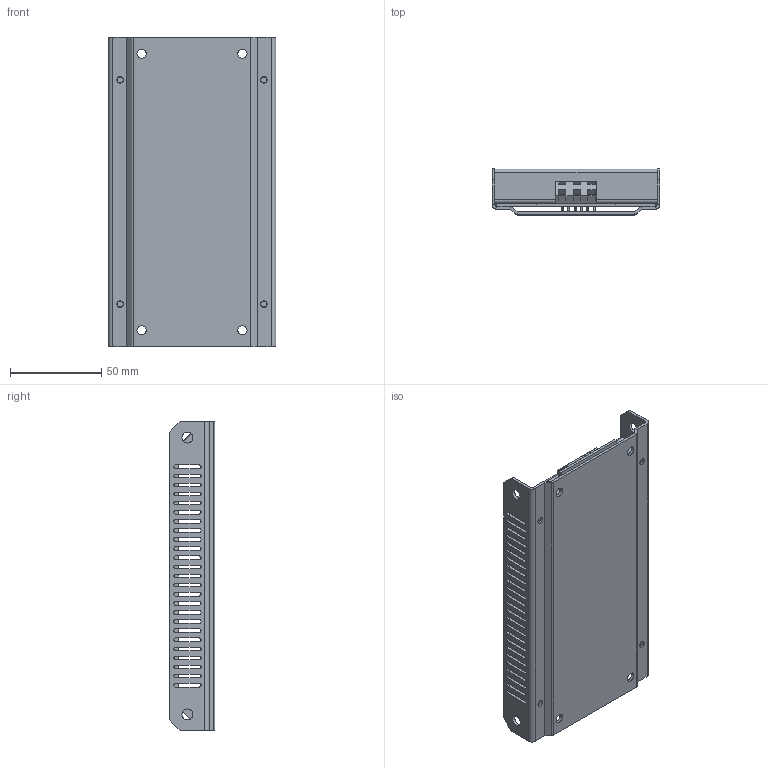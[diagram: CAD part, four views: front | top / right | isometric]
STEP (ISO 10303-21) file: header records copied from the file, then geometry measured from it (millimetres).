
FILE_DESCRIPTION (( 'STEP AP214' ), '1' );
FILE_NAME ('MIF03-06.STEP', '2015-01-13T16:07:28', ( '' ), ( '' ), 'SwSTEP 2.0', 'SolidWorks 2014', '' );
FILE_SCHEMA (( 'AUTOMOTIVE_DESIGN' ));
Length unit declared in the file: millimetre
Products named in the file (5): TER91; PCB68; BOX168A; MIF03-06; BOX168B
Assembly tree (5 placements, depth 2):
  MIF03-06
    BOX168A
    PCB68
    TER91  x2
    BOX168B
Bounding box: 92 x 25 x 170 mm (x, y, z)
Volume: 71524.8 mm3; surface area: 108726.8 mm2
Topology: 5 solids, 5 shells, 1036 faces, 2820 edges, 1840 vertices
Faces by surface type: plane 537, cylinder 394, bspline 105
Entity records: 37083 total; most frequent: CARTESIAN_POINT 11606, ORIENTED_EDGE 5304, DIRECTION 4942, EDGE_CURVE 2652, VERTEX_POINT 1732, VECTOR 1678, LINE 1678, AXIS2_PLACEMENT_3D 1632
